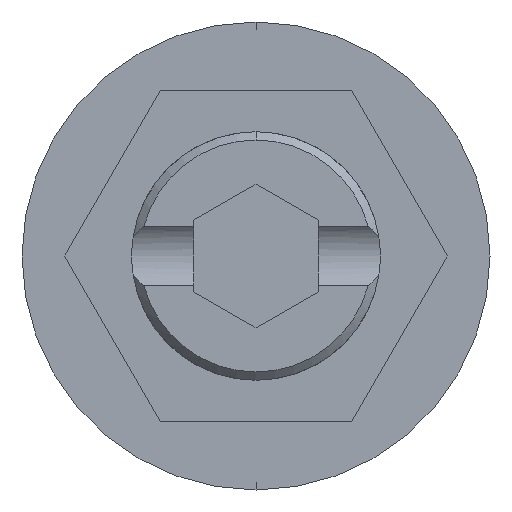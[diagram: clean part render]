
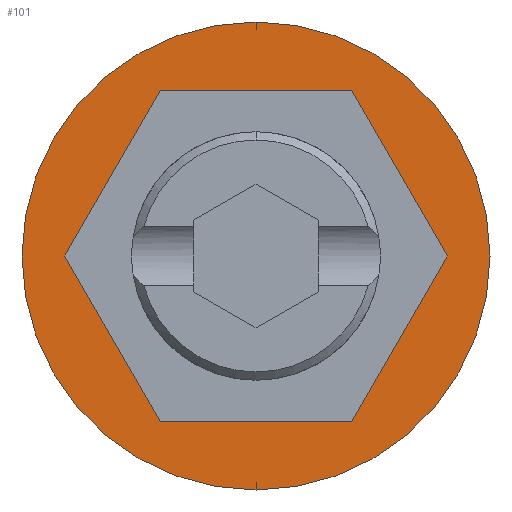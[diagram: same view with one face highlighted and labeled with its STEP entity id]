
A CAD part, front view. The second image highlights one B-rep face of the part: STEP entity #101.
In plain terms, the highlighted planar face has unit normal (0, -1, 0).
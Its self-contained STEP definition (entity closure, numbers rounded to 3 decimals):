
#2 = EDGE_CURVE ( 'NONE', #1920, #1795, #990, .T. ) ;
#34 = VECTOR ( 'NONE', #1915, 1000. ) ;
#52 = ORIENTED_EDGE ( 'NONE', *, *, #831, .F. ) ;
#54 = LINE ( 'NONE', #331, #1789 ) ;
#67 = ORIENTED_EDGE ( 'NONE', *, *, #1729, .F. ) ;
#101 = ADVANCED_FACE ( 'NONE', ( #137, #1909 ), #2012, .T. ) ;
#128 = DIRECTION ( 'NONE',  ( 0., -1., 0. ) ) ;
#137 = FACE_BOUND ( 'NONE', #181, .T. ) ;
#170 = LINE ( 'NONE', #1731, #1007 ) ;
#174 = DIRECTION ( 'NONE',  ( 0., -1., 0. ) ) ;
#181 = EDGE_LOOP ( 'NONE', ( #1488, #1145, #468, #657, #52, #67 ) ) ;
#210 = DIRECTION ( 'NONE',  ( 0.5, 0., -0.866 ) ) ;
#232 = CARTESIAN_POINT ( 'NONE',  ( 0., 0., 5.65 ) ) ;
#331 = CARTESIAN_POINT ( 'NONE',  ( -2.309, 0., 4. ) ) ;
#350 = VERTEX_POINT ( 'NONE', #1798 ) ;
#355 = CIRCLE ( 'NONE', #360, 5.65 ) ;
#360 = AXIS2_PLACEMENT_3D ( 'NONE', #727, #1060, #1233 ) ;
#365 = CARTESIAN_POINT ( 'NONE',  ( -4.619, 0., 0. ) ) ;
#379 = VERTEX_POINT ( 'NONE', #2105 ) ;
#388 = CARTESIAN_POINT ( 'NONE',  ( 4.619, 0., 0. ) ) ;
#421 = AXIS2_PLACEMENT_3D ( 'NONE', #915, #128, #1778 ) ;
#438 = VECTOR ( 'NONE', #1520, 1000. ) ;
#447 = EDGE_CURVE ( 'NONE', #1670, #379, #793, .T. ) ;
#468 = ORIENTED_EDGE ( 'NONE', *, *, #2015, .F. ) ;
#542 = VECTOR ( 'NONE', #1175, 1000. ) ;
#561 = DIRECTION ( 'NONE',  ( 0.5, 0., 0.866 ) ) ;
#588 = CARTESIAN_POINT ( 'NONE',  ( 4.619, 0., 0. ) ) ;
#657 = ORIENTED_EDGE ( 'NONE', *, *, #861, .F. ) ;
#683 = EDGE_CURVE ( 'NONE', #379, #1670, #355, .T. ) ;
#727 = CARTESIAN_POINT ( 'NONE',  ( 0., 0., 0. ) ) ;
#755 = EDGE_LOOP ( 'NONE', ( #1021, #1945 ) ) ;
#793 = CIRCLE ( 'NONE', #421, 5.65 ) ;
#831 = EDGE_CURVE ( 'NONE', #1749, #350, #1084, .T. ) ;
#833 = DIRECTION ( 'NONE',  ( -0.5, 0., -0.866 ) ) ;
#861 = EDGE_CURVE ( 'NONE', #350, #2011, #1771, .T. ) ;
#900 = CARTESIAN_POINT ( 'NONE',  ( -2.309, 0., -4. ) ) ;
#915 = CARTESIAN_POINT ( 'NONE',  ( 0., 0., 0. ) ) ;
#990 = LINE ( 'NONE', #900, #542 ) ;
#1007 = VECTOR ( 'NONE', #210, 1000. ) ;
#1016 = EDGE_CURVE ( 'NONE', #2167, #1920, #170, .T. ) ;
#1021 = ORIENTED_EDGE ( 'NONE', *, *, #683, .T. ) ;
#1060 = DIRECTION ( 'NONE',  ( 0., -1., 0. ) ) ;
#1084 = LINE ( 'NONE', #588, #34 ) ;
#1145 = ORIENTED_EDGE ( 'NONE', *, *, #1016, .F. ) ;
#1175 = DIRECTION ( 'NONE',  ( 1., 0., 0. ) ) ;
#1210 = CARTESIAN_POINT ( 'NONE',  ( 2.309, 0., -4. ) ) ;
#1233 = DIRECTION ( 'NONE',  ( 0., 0., -1. ) ) ;
#1488 = ORIENTED_EDGE ( 'NONE', *, *, #2, .F. ) ;
#1509 = CARTESIAN_POINT ( 'NONE',  ( -2.309, 0., 4. ) ) ;
#1520 = DIRECTION ( 'NONE',  ( -1., 0., 0. ) ) ;
#1534 = LINE ( 'NONE', #2048, #1863 ) ;
#1592 = CARTESIAN_POINT ( 'NONE',  ( 2.309, 0., 4. ) ) ;
#1627 = AXIS2_PLACEMENT_3D ( 'NONE', #1987, #174, #2003 ) ;
#1670 = VERTEX_POINT ( 'NONE', #232 ) ;
#1729 = EDGE_CURVE ( 'NONE', #1795, #1749, #1534, .T. ) ;
#1731 = CARTESIAN_POINT ( 'NONE',  ( -4.619, 0., 0. ) ) ;
#1749 = VERTEX_POINT ( 'NONE', #388 ) ;
#1771 = LINE ( 'NONE', #1592, #438 ) ;
#1778 = DIRECTION ( 'NONE',  ( 0., 0., -1. ) ) ;
#1789 = VECTOR ( 'NONE', #833, 1000. ) ;
#1795 = VERTEX_POINT ( 'NONE', #1210 ) ;
#1798 = CARTESIAN_POINT ( 'NONE',  ( 2.309, 0., 4. ) ) ;
#1863 = VECTOR ( 'NONE', #561, 1000. ) ;
#1909 = FACE_OUTER_BOUND ( 'NONE', #755, .T. ) ;
#1915 = DIRECTION ( 'NONE',  ( -0.5, 0., 0.866 ) ) ;
#1920 = VERTEX_POINT ( 'NONE', #1959 ) ;
#1945 = ORIENTED_EDGE ( 'NONE', *, *, #447, .T. ) ;
#1959 = CARTESIAN_POINT ( 'NONE',  ( -2.309, 0., -4. ) ) ;
#1987 = CARTESIAN_POINT ( 'NONE',  ( 0., 0., 0. ) ) ;
#2003 = DIRECTION ( 'NONE',  ( 0., 0., -1. ) ) ;
#2011 = VERTEX_POINT ( 'NONE', #1509 ) ;
#2012 = PLANE ( 'NONE',  #1627 ) ;
#2015 = EDGE_CURVE ( 'NONE', #2011, #2167, #54, .T. ) ;
#2048 = CARTESIAN_POINT ( 'NONE',  ( 2.309, 0., -4. ) ) ;
#2105 = CARTESIAN_POINT ( 'NONE',  ( 0., 0., -5.65 ) ) ;
#2167 = VERTEX_POINT ( 'NONE', #365 ) ;
